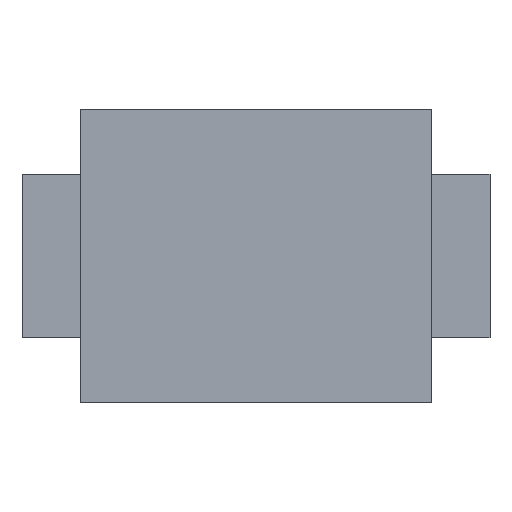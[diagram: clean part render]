
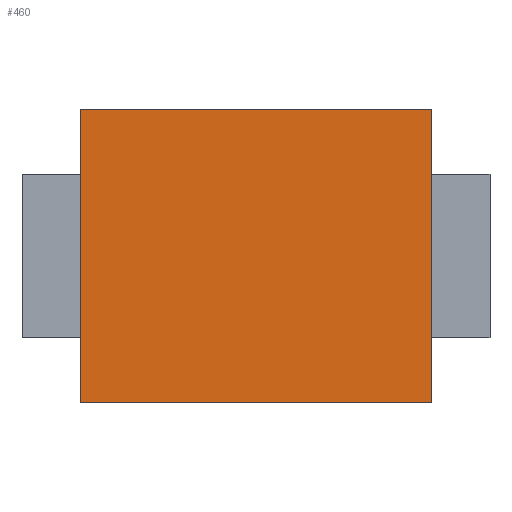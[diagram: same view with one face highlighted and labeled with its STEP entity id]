
A CAD part, front view. The second image highlights one B-rep face of the part: STEP entity #460.
In plain terms, the highlighted planar face has unit normal (0, -1, 0).
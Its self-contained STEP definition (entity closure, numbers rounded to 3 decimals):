
#20 = EDGE_CURVE ( 'NONE', #716, #324, #581, .T. ) ;
#23 = CARTESIAN_POINT ( 'NONE',  ( 1.5, 0., -1.25 ) ) ;
#30 = ORIENTED_EDGE ( 'NONE', *, *, #384, .F. ) ;
#40 = VECTOR ( 'NONE', #524, 1000. ) ;
#44 = ORIENTED_EDGE ( 'NONE', *, *, #739, .F. ) ;
#71 = DIRECTION ( 'NONE',  ( 1., 0., 0. ) ) ;
#73 = CARTESIAN_POINT ( 'NONE',  ( -1.5, 0., 1.25 ) ) ;
#87 = DIRECTION ( 'NONE',  ( 0., 1., 0. ) ) ;
#175 = LINE ( 'NONE', #235, #365 ) ;
#185 = CARTESIAN_POINT ( 'NONE',  ( -1.5, 0., -1.25 ) ) ;
#198 = EDGE_LOOP ( 'NONE', ( #44, #427, #361, #30 ) ) ;
#224 = VERTEX_POINT ( 'NONE', #386 ) ;
#227 = DIRECTION ( 'NONE',  ( 0., 0., -1. ) ) ;
#235 = CARTESIAN_POINT ( 'NONE',  ( 1.5, 0., -1.25 ) ) ;
#310 = CARTESIAN_POINT ( 'NONE',  ( 0., 0., 0. ) ) ;
#316 = CARTESIAN_POINT ( 'NONE',  ( -1.5, 0., -1.25 ) ) ;
#319 = VERTEX_POINT ( 'NONE', #23 ) ;
#324 = VERTEX_POINT ( 'NONE', #359 ) ;
#359 = CARTESIAN_POINT ( 'NONE',  ( 1.5, 0., 1.25 ) ) ;
#361 = ORIENTED_EDGE ( 'NONE', *, *, #636, .F. ) ;
#365 = VECTOR ( 'NONE', #227, 1000. ) ;
#384 = EDGE_CURVE ( 'NONE', #319, #224, #465, .T. ) ;
#386 = CARTESIAN_POINT ( 'NONE',  ( -1.5, 0., -1.25 ) ) ;
#404 = VECTOR ( 'NONE', #550, 1000. ) ;
#427 = ORIENTED_EDGE ( 'NONE', *, *, #20, .F. ) ;
#430 = LINE ( 'NONE', #316, #404 ) ;
#460 = ADVANCED_FACE ( 'NONE', ( #726 ), #597, .F. ) ;
#465 = LINE ( 'NONE', #185, #40 ) ;
#493 = VECTOR ( 'NONE', #71, 1000. ) ;
#499 = DIRECTION ( 'NONE',  ( 0., 0., 1. ) ) ;
#524 = DIRECTION ( 'NONE',  ( -1., 0., 0. ) ) ;
#550 = DIRECTION ( 'NONE',  ( 0., 0., 1. ) ) ;
#581 = LINE ( 'NONE', #73, #493 ) ;
#597 = PLANE ( 'NONE',  #678 ) ;
#611 = CARTESIAN_POINT ( 'NONE',  ( -1.5, 0., 1.25 ) ) ;
#636 = EDGE_CURVE ( 'NONE', #224, #716, #430, .T. ) ;
#678 = AXIS2_PLACEMENT_3D ( 'NONE', #310, #87, #499 ) ;
#716 = VERTEX_POINT ( 'NONE', #611 ) ;
#726 = FACE_OUTER_BOUND ( 'NONE', #198, .T. ) ;
#739 = EDGE_CURVE ( 'NONE', #324, #319, #175, .T. ) ;
